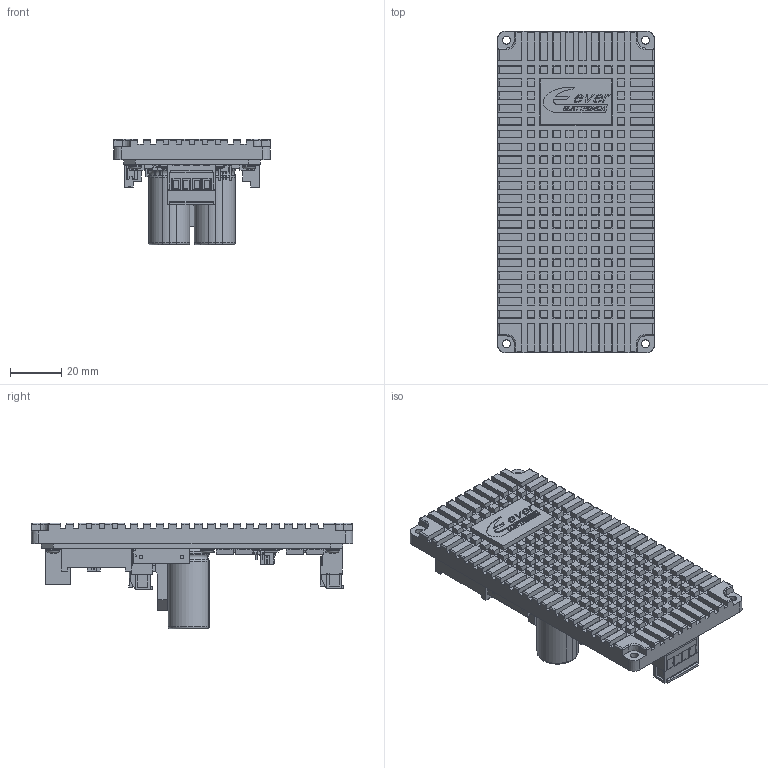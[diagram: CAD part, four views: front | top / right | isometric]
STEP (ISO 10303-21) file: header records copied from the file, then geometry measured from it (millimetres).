
FILE_DESCRIPTION((''),'2;1');
FILE_NAME('SB4A3042X261-00_ASM','2018-07-16T09:05:46',('Matteo Maccalli'),(''),'CREO PARAMETRIC BY PTC INC, 2017260','CREO PARAMETRIC BY PTC INC, 2017260','');
FILE_SCHEMA(('CONFIG_CONTROL_DESIGN'));
Length unit declared in the file: millimetre
Products named in the file (83): ESTRUSO_24MD; BOARDIMD00-01; SOLID-13104; COMPOUND-50331; 530141010_ASM; CN5IMD00-01_ASM; B10B-XASK-1; CN3IMD00-01_ASM; USER_LIBRARY-CAP_ELECTROL-57016; USER_LIBRARY-CAP_ELECTROL-59204; USER_LIBRARY-CAP_ELECTROL-61501; USER_LIBRARY-CAP_ELECTROL-642_1; USER_LIBRARY-CAP_ELECTROL-642_2; USER_LIBRARY-CAP_ELECTROL-642_3; USER_LIBRARY-CAP_ELECTROL-64225_ASM; USER_LIBRARY-CAP_ELECTROL-64958; USER_LIBRARY-CAP_ELECTROL-56990_ASM; CE200IMD00-01_ASM; CE201IMD00-01_ASM; USER_LIBRARY-TO252AA; QN303IMD00-01_ASM; B08B-XASK-1; CN1IMD00-01_ASM; B04B-XASK-1; CN2IMD00-01_ASM; USER_LIBRARY-SO8-4_1; USER_LIBRARY-SO8-4_2; USER_LIBRARY-SO8-4_ASM; U303IMD00-01_ASM; U302IMD00-01_ASM; U301IMD00-01_ASM; U300IMD00-01_ASM; QN307IMD00-01_ASM; QN306IMD00-01_ASM; QN305IMD00-01_ASM; QN304IMD00-01_ASM; QN302IMD00-01_ASM; QN301IMD00-01_ASM; QN300IMD00-01_ASM; 1812_SMD_CAPACITOR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
Assembly tree (168 placements, depth 7):
  SB4A3042X261-00_ASM
    ESTRUSO_24MD
    IMD00-01_ASM
      PCB_ASM
        BOARDIMD00-01
        CN5IMD00-01_ASM
          530141010_ASM
            SOLID-13104
            COMPOUND-50331
        CN3IMD00-01_ASM
          B10B-XASK-1
        CE200IMD00-01_ASM
          USER_LIBRARY-CAP_ELECTROL-56990_ASM
            USER_LIBRARY-CAP_ELECTROL-57016
            USER_LIBRARY-CAP_ELECTROL-59204
            USER_LIBRARY-CAP_ELECTROL-61501
            USER_LIBRARY-CAP_ELECTROL-64225_ASM
              USER_LIBRARY-CAP_ELECTROL-642_1
              USER_LIBRARY-CAP_ELECTROL-642_2
              USER_LIBRARY-CAP_ELECTROL-642_3
            USER_LIBRARY-CAP_ELECTROL-64958
        CE201IMD00-01_ASM
          USER_LIBRARY-CAP_ELECTROL-56990_ASM
            USER_LIBRARY-CAP_ELECTROL-57016
            USER_LIBRARY-CAP_ELECTROL-59204
            USER_LIBRARY-CAP_ELECTROL-61501
            USER_LIBRARY-CAP_ELECTROL-64225_ASM
              USER_LIBRARY-CAP_ELECTROL-642_1
              USER_LIBRARY-CAP_ELECTROL-642_2
              USER_LIBRARY-CAP_ELECTROL-642_3
            USER_LIBRARY-CAP_ELECTROL-64958
        QN303IMD00-01_ASM
          USER_LIBRARY-TO252AA
        CN1IMD00-01_ASM
          B08B-XASK-1
        CN2IMD00-01_ASM
          B04B-XASK-1
        U303IMD00-01_ASM
          USER_LIBRARY-SO8-4_ASM
            USER_LIBRARY-SO8-4_1
            USER_LIBRARY-SO8-4_2
        U302IMD00-01_ASM
          USER_LIBRARY-SO8-4_ASM
            USER_LIBRARY-SO8-4_1
            USER_LIBRARY-SO8-4_2
        U301IMD00-01_ASM
          USER_LIBRARY-SO8-4_ASM
            USER_LIBRARY-SO8-4_1
            USER_LIBRARY-SO8-4_2
        U300IMD00-01_ASM
          USER_LIBRARY-SO8-4_ASM
            USER_LIBRARY-SO8-4_1
            USER_LIBRARY-SO8-4_2
        QN307IMD00-01_ASM
          USER_LIBRARY-TO252AA
        QN306IMD00-01_ASM
          USER_LIBRARY-TO252AA
        QN305IMD00-01_ASM
          USER_LIBRARY-TO252AA
        QN304IMD00-01_ASM
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Bounding box: 61 x 125 x 41.12 mm (x, y, z)
Volume: 58322.2 mm3; surface area: 66287.5 mm2
Topology: 126 solids, 126 shells, 9153 faces, 22696 edges, 13622 vertices
Faces by surface type: plane 5357, cylinder 2365, sphere 616, torus 582, extrusion 171, cone 60, bspline 2
Entity records: 136915 total; most frequent: CARTESIAN_POINT 26155, ORIENTED_EDGE 22712, DIRECTION 21776, EDGE_CURVE 11356, VECTOR 9984, LINE 9927, VERTEX_POINT 7363, AXIS2_PLACEMENT_3D 5896
